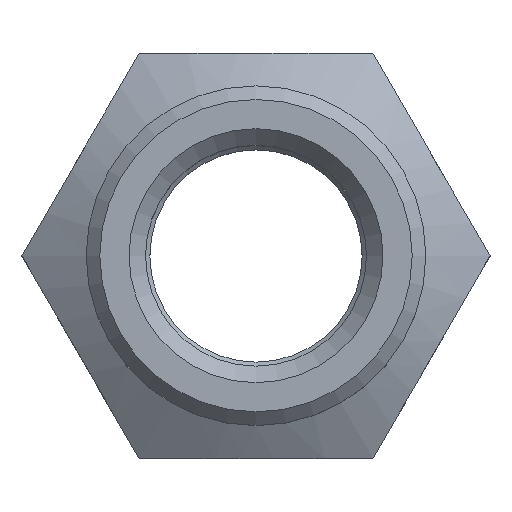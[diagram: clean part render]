
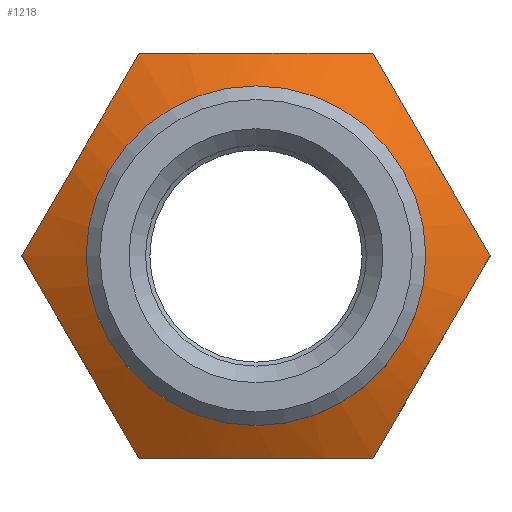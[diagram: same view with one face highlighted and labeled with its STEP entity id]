
A CAD part, top view. The second image highlights one B-rep face of the part: STEP entity #1218.
In plain terms, the highlighted conical face has half-angle 60 degrees and reference radius 8.8 mm.
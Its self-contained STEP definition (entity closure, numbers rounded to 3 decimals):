
#764=CARTESIAN_POINT('',(-12.124,-0.,-6.725));
#765=VERTEX_POINT('',#764);
#772=CARTESIAN_POINT('',(-6.062,10.5,-6.725));
#773=VERTEX_POINT('',#772);
#774=CARTESIAN_POINT('',(-6.062,10.5,-6.725));
#775=CARTESIAN_POINT('',(-6.557,9.643,-6.44));
#776=CARTESIAN_POINT('',(-7.056,8.779,-6.204));
#777=CARTESIAN_POINT('',(-7.559,7.907,-6.041));
#778=CARTESIAN_POINT('',(-8.063,7.034,-5.878));
#779=CARTESIAN_POINT('',(-8.572,6.153,-5.788));
#780=CARTESIAN_POINT('',(-9.087,5.26,-5.788));
#781=CARTESIAN_POINT('',(-9.216,5.037,-5.787));
#782=CARTESIAN_POINT('',(-9.346,4.813,-5.793));
#783=CARTESIAN_POINT('',(-9.475,4.589,-5.804));
#784=CARTESIAN_POINT('',(-9.604,4.366,-5.814));
#785=CARTESIAN_POINT('',(-9.732,4.143,-5.831));
#786=CARTESIAN_POINT('',(-9.86,3.922,-5.852));
#787=CARTESIAN_POINT('',(-10.116,3.478,-5.895));
#788=CARTESIAN_POINT('',(-10.371,3.038,-5.958));
#789=CARTESIAN_POINT('',(-10.623,2.6,-6.04));
#790=CARTESIAN_POINT('',(-11.129,1.724,-6.203));
#791=CARTESIAN_POINT('',(-11.629,0.858,-6.439));
#792=CARTESIAN_POINT('',(-12.124,-0.,-6.725));
#793=B_SPLINE_CURVE_WITH_KNOTS('',3,(#774,#775,#776,#777,#778,#779,#780,#781,#782,#783,#784,#785,#786,#787,#788,#789,#790,#791,#792),.UNSPECIFIED.,.F.,.F.,(4,3,3,3,3,3,4),(0.,0.003,0.006,0.007,0.008,0.009,0.012),.UNSPECIFIED.);
#794=EDGE_CURVE('',#773,#765,#793,.T.);
#847=CARTESIAN_POINT('',(6.062,10.5,-6.725));
#848=VERTEX_POINT('',#847);
#849=CARTESIAN_POINT('',(6.062,10.5,-6.725));
#850=CARTESIAN_POINT('',(5.075,10.5,-6.44));
#851=CARTESIAN_POINT('',(4.079,10.5,-6.205));
#852=CARTESIAN_POINT('',(3.07,10.5,-6.041));
#853=CARTESIAN_POINT('',(2.061,10.5,-5.878));
#854=CARTESIAN_POINT('',(1.039,10.5,-5.788));
#855=CARTESIAN_POINT('',(0.,10.5,-5.788));
#856=CARTESIAN_POINT('',(-1.038,10.5,-5.788));
#857=CARTESIAN_POINT('',(-2.062,10.5,-5.878));
#858=CARTESIAN_POINT('',(-3.071,10.5,-6.041));
#859=CARTESIAN_POINT('',(-4.08,10.5,-6.205));
#860=CARTESIAN_POINT('',(-5.076,10.5,-6.441));
#861=CARTESIAN_POINT('',(-6.062,10.5,-6.725));
#862=B_SPLINE_CURVE_WITH_KNOTS('',3,(#849,#850,#851,#852,#853,#854,#855,#856,#857,#858,#859,#860,#861),.UNSPECIFIED.,.F.,.F.,(4,3,3,3,4),(0.013,0.016,0.02,0.023,0.026),.UNSPECIFIED.);
#863=EDGE_CURVE('',#848,#773,#862,.T.);
#904=CARTESIAN_POINT('',(12.124,0.,-6.725));
#905=VERTEX_POINT('',#904);
#906=CARTESIAN_POINT('',(12.124,-0.,-6.725));
#907=CARTESIAN_POINT('',(11.629,0.857,-6.44));
#908=CARTESIAN_POINT('',(11.131,1.721,-6.204));
#909=CARTESIAN_POINT('',(10.627,2.593,-6.041));
#910=CARTESIAN_POINT('',(10.123,3.466,-5.878));
#911=CARTESIAN_POINT('',(9.614,4.347,-5.788));
#912=CARTESIAN_POINT('',(9.099,5.24,-5.788));
#913=CARTESIAN_POINT('',(8.97,5.463,-5.787));
#914=CARTESIAN_POINT('',(8.841,5.687,-5.793));
#915=CARTESIAN_POINT('',(8.712,5.911,-5.804));
#916=CARTESIAN_POINT('',(8.583,6.134,-5.814));
#917=CARTESIAN_POINT('',(8.454,6.357,-5.831));
#918=CARTESIAN_POINT('',(8.326,6.578,-5.852));
#919=CARTESIAN_POINT('',(8.07,7.022,-5.895));
#920=CARTESIAN_POINT('',(7.816,7.462,-5.958));
#921=CARTESIAN_POINT('',(7.563,7.9,-6.04));
#922=CARTESIAN_POINT('',(7.057,8.776,-6.203));
#923=CARTESIAN_POINT('',(6.558,9.642,-6.439));
#924=CARTESIAN_POINT('',(6.062,10.5,-6.725));
#925=B_SPLINE_CURVE_WITH_KNOTS('',3,(#906,#907,#908,#909,#910,#911,#912,#913,#914,#915,#916,#917,#918,#919,#920,#921,#922,#923,#924),.UNSPECIFIED.,.F.,.F.,(4,3,3,3,3,3,4),(0.,0.003,0.006,0.007,0.008,0.009,0.012),.UNSPECIFIED.);
#926=EDGE_CURVE('',#905,#848,#925,.T.);
#973=CARTESIAN_POINT('',(6.062,-10.5,-6.725));
#974=VERTEX_POINT('',#973);
#975=CARTESIAN_POINT('',(6.062,-10.5,-6.725));
#976=CARTESIAN_POINT('',(6.557,-9.643,-6.44));
#977=CARTESIAN_POINT('',(7.056,-8.779,-6.204));
#978=CARTESIAN_POINT('',(7.559,-7.907,-6.041));
#979=CARTESIAN_POINT('',(8.063,-7.034,-5.878));
#980=CARTESIAN_POINT('',(8.572,-6.153,-5.788));
#981=CARTESIAN_POINT('',(9.087,-5.26,-5.788));
#982=CARTESIAN_POINT('',(9.216,-5.037,-5.787));
#983=CARTESIAN_POINT('',(9.346,-4.813,-5.793));
#984=CARTESIAN_POINT('',(9.475,-4.589,-5.804));
#985=CARTESIAN_POINT('',(9.604,-4.366,-5.814));
#986=CARTESIAN_POINT('',(9.732,-4.143,-5.831));
#987=CARTESIAN_POINT('',(9.86,-3.922,-5.852));
#988=CARTESIAN_POINT('',(10.116,-3.478,-5.895));
#989=CARTESIAN_POINT('',(10.371,-3.038,-5.958));
#990=CARTESIAN_POINT('',(10.623,-2.6,-6.04));
#991=CARTESIAN_POINT('',(11.129,-1.724,-6.203));
#992=CARTESIAN_POINT('',(11.629,-0.858,-6.439));
#993=CARTESIAN_POINT('',(12.124,0.,-6.725));
#994=B_SPLINE_CURVE_WITH_KNOTS('',3,(#975,#976,#977,#978,#979,#980,#981,#982,#983,#984,#985,#986,#987,#988,#989,#990,#991,#992,#993),.UNSPECIFIED.,.F.,.F.,(4,3,3,3,3,3,4),(0.,0.003,0.006,0.007,0.008,0.009,0.012),.UNSPECIFIED.);
#995=EDGE_CURVE('',#974,#905,#994,.T.);
#1048=CARTESIAN_POINT('',(-6.062,-10.5,-6.725));
#1049=VERTEX_POINT('',#1048);
#1050=CARTESIAN_POINT('',(-6.062,-10.5,-6.725));
#1051=CARTESIAN_POINT('',(-5.075,-10.5,-6.44));
#1052=CARTESIAN_POINT('',(-4.079,-10.5,-6.205));
#1053=CARTESIAN_POINT('',(-3.07,-10.5,-6.041));
#1054=CARTESIAN_POINT('',(-2.061,-10.5,-5.878));
#1055=CARTESIAN_POINT('',(-1.039,-10.5,-5.788));
#1056=CARTESIAN_POINT('',(0.,-10.5,-5.788));
#1057=CARTESIAN_POINT('',(1.038,-10.5,-5.788));
#1058=CARTESIAN_POINT('',(2.062,-10.5,-5.878));
#1059=CARTESIAN_POINT('',(3.071,-10.5,-6.041));
#1060=CARTESIAN_POINT('',(4.08,-10.5,-6.205));
#1061=CARTESIAN_POINT('',(5.076,-10.5,-6.441));
#1062=CARTESIAN_POINT('',(6.062,-10.5,-6.725));
#1063=B_SPLINE_CURVE_WITH_KNOTS('',3,(#1050,#1051,#1052,#1053,#1054,#1055,#1056,#1057,#1058,#1059,#1060,#1061,#1062),.UNSPECIFIED.,.F.,.F.,(4,3,3,3,4),(0.013,0.016,0.02,0.023,0.026),.UNSPECIFIED.);
#1064=EDGE_CURVE('',#1049,#974,#1063,.T.);
#1105=CARTESIAN_POINT('',(-12.124,0.,-6.725));
#1106=CARTESIAN_POINT('',(-11.629,-0.857,-6.44));
#1107=CARTESIAN_POINT('',(-11.131,-1.721,-6.204));
#1108=CARTESIAN_POINT('',(-10.627,-2.593,-6.041));
#1109=CARTESIAN_POINT('',(-10.123,-3.466,-5.878));
#1110=CARTESIAN_POINT('',(-9.614,-4.347,-5.788));
#1111=CARTESIAN_POINT('',(-9.099,-5.24,-5.788));
#1112=CARTESIAN_POINT('',(-8.97,-5.463,-5.787));
#1113=CARTESIAN_POINT('',(-8.841,-5.687,-5.793));
#1114=CARTESIAN_POINT('',(-8.712,-5.911,-5.804));
#1115=CARTESIAN_POINT('',(-8.583,-6.134,-5.814));
#1116=CARTESIAN_POINT('',(-8.454,-6.357,-5.831));
#1117=CARTESIAN_POINT('',(-8.326,-6.578,-5.852));
#1118=CARTESIAN_POINT('',(-8.07,-7.022,-5.895));
#1119=CARTESIAN_POINT('',(-7.816,-7.462,-5.958));
#1120=CARTESIAN_POINT('',(-7.563,-7.9,-6.04));
#1121=CARTESIAN_POINT('',(-7.057,-8.776,-6.203));
#1122=CARTESIAN_POINT('',(-6.558,-9.642,-6.439));
#1123=CARTESIAN_POINT('',(-6.062,-10.5,-6.725));
#1124=B_SPLINE_CURVE_WITH_KNOTS('',3,(#1105,#1106,#1107,#1108,#1109,#1110,#1111,#1112,#1113,#1114,#1115,#1116,#1117,#1118,#1119,#1120,#1121,#1122,#1123),.UNSPECIFIED.,.F.,.F.,(4,3,3,3,3,3,4),(0.,0.003,0.006,0.007,0.008,0.009,0.012),.UNSPECIFIED.);
#1125=EDGE_CURVE('',#765,#1049,#1124,.T.);
#1177=CARTESIAN_POINT('',(-8.8,-0.,-4.806));
#1178=VERTEX_POINT('',#1177);
#1187=CARTESIAN_POINT('',(0.,0.,-4.806));
#1188=DIRECTION('',(0.,0.,-1.));
#1189=DIRECTION('',(-1.,0.,0.));
#1190=AXIS2_PLACEMENT_3D('',#1187,#1188,#1189);
#1191=CIRCLE('',#1190,8.8);
#1192=EDGE_CURVE('',#1178,#1178,#1191,.T.);
#1197=CARTESIAN_POINT('',(0.,0.,-4.806));
#1198=DIRECTION('',(0.,0.,-1.));
#1199=DIRECTION('',(-1.,0.,0.));
#1200=AXIS2_PLACEMENT_3D('',#1197,#1198,#1199);
#1201=CONICAL_SURFACE('',#1200,8.8,60.);
#1202=CARTESIAN_POINT('',(-12.124,0.,-6.725));
#1203=DIRECTION('',(0.866,-0.,0.5));
#1204=VECTOR('',#1203,3.839);
#1205=LINE('',#1202,#1204);
#1206=EDGE_CURVE('',#765,#1178,#1205,.T.);
#1207=ORIENTED_EDGE('',*,*,#1206,.T.);
#1208=ORIENTED_EDGE('',*,*,#1192,.T.);
#1209=ORIENTED_EDGE('',*,*,#1206,.F.);
#1210=ORIENTED_EDGE('',*,*,#1125,.T.);
#1211=ORIENTED_EDGE('',*,*,#1064,.T.);
#1212=ORIENTED_EDGE('',*,*,#995,.T.);
#1213=ORIENTED_EDGE('',*,*,#926,.T.);
#1214=ORIENTED_EDGE('',*,*,#863,.T.);
#1215=ORIENTED_EDGE('',*,*,#794,.T.);
#1216=EDGE_LOOP('',(#1207,#1208,#1209,#1210,#1211,#1212,#1213,#1214,#1215));
#1217=FACE_BOUND('',#1216,.T.);
#1218=ADVANCED_FACE('',(#1217),#1201,.T.);
